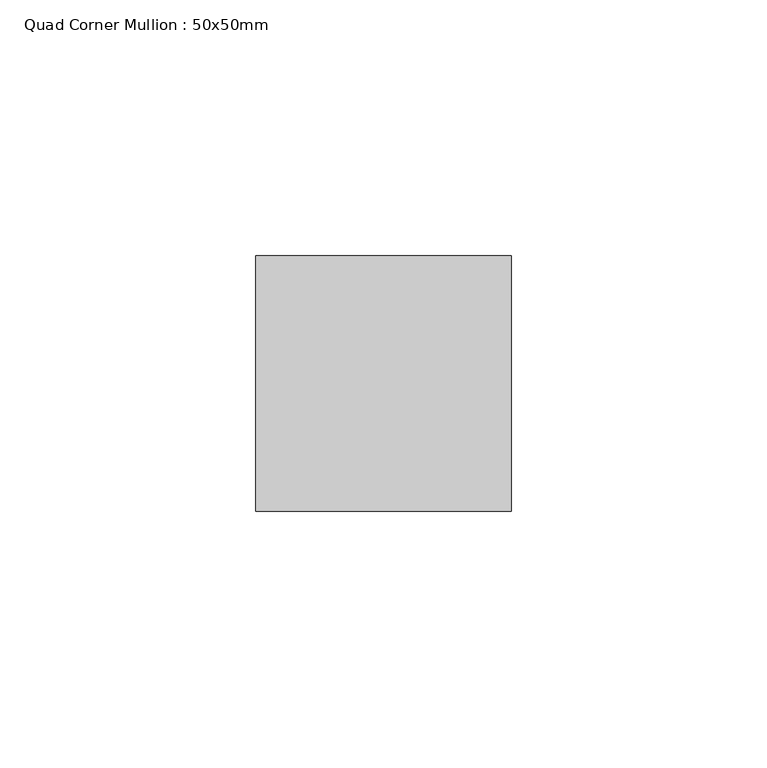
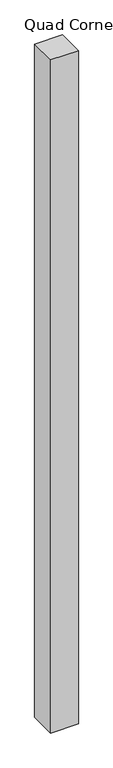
"""IFC4 building model written with IfcOpenShell, lengths in millimetres: member geometry, Quad Corner Mullion : 50x50mm."""

from ifc_helpers import new_model, si_unit, frame, origin, place, context, project, spatial, polyline, outline, extrude, source, transform, mapped, element, save


def quad_corner_mullion_50x50mm_c5f07575(model_context):
    return source(origin(), model_context, "Body", "SweptSolid", [
        extrude(outline(polyline([(25.0, 25.0), (25.0, -25.0), (-25.0, -25.0), (-25.0, 25.0), (25.0, 25.0)])), frame((0.0, 0.0, -1286.9557776), z_axis=(0.0, 0.0, 1.0), x_axis=(1.0, 0.0, 0.0)), (0.0, 0.0, 1.0), 1286.9557776),
    ])


if __name__ == "__main__":
    model = new_model("IFC4")
    model_context = context("Model", 3, world=origin())
    ifc_project = project(units=[si_unit("LENGTHUNIT", "METRE", prefix="MILLI")], contexts=[model_context])
    site = spatial("IfcSite", under=ifc_project)
    building = spatial("IfcBuilding", under=site)
    placement = place(None, origin())
    quad_corner_mullion_50x50mm_shape = quad_corner_mullion_50x50mm_c5f07575(model_context)
    element("IfcMember", 1, ObjectType="Quad Corner Mullion : 50x50mm", at=placement, inside=building, context=model_context, shape_type="MappedRepresentation", body=[
        mapped(quad_corner_mullion_50x50mm_shape, transform((0.0, 0.0, 0.0), x_axis=(1.0, 0.0, 0.0), y_axis=(0.0, 1.0, 0.0), z_axis=(0.0, 0.0, 1.0))),
    ])
    save(model, "model.ifc")
